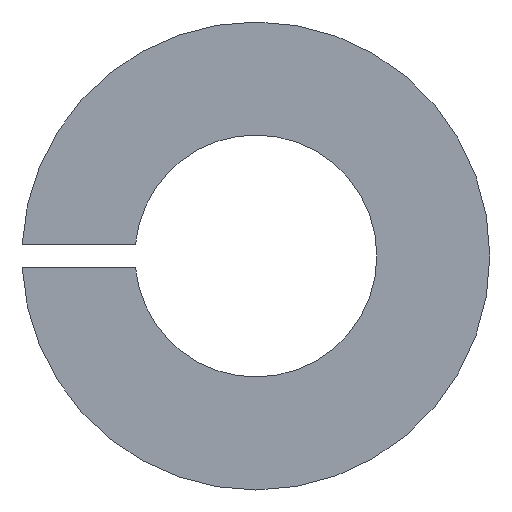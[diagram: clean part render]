
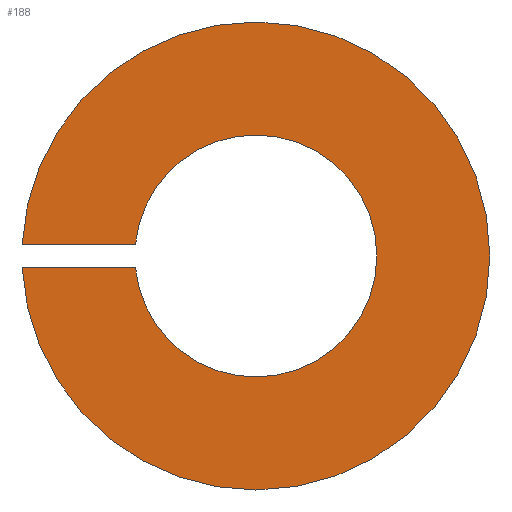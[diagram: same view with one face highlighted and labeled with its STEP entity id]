
A CAD part, left-side view. The second image highlights one B-rep face of the part: STEP entity #188.
In plain terms, the highlighted planar face has unit normal (-1, 0, 0).
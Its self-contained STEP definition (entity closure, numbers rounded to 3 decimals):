
#3 = CIRCLE ( 'NONE', #196, 5.9 ) ;
#6 = EDGE_CURVE ( 'NONE', #224, #307, #58, .T. ) ;
#14 = EDGE_CURVE ( 'NONE', #56, #29, #318, .T. ) ;
#17 = ORIENTED_EDGE ( 'NONE', *, *, #64, .F. ) ;
#18 = ORIENTED_EDGE ( 'NONE', *, *, #6, .T. ) ;
#22 = DIRECTION ( 'NONE',  ( -1., 0., 0. ) ) ;
#23 = DIRECTION ( 'NONE',  ( -1., 0., 0. ) ) ;
#27 = DIRECTION ( 'NONE',  ( 1., 0., 0. ) ) ;
#28 = CARTESIAN_POINT ( 'NONE',  ( 0., 0., 0. ) ) ;
#29 = VERTEX_POINT ( 'NONE', #130 ) ;
#40 = FACE_OUTER_BOUND ( 'NONE', #287, .T. ) ;
#42 = CARTESIAN_POINT ( 'NONE',  ( 0., 5.892, -0.3 ) ) ;
#43 = EDGE_CURVE ( 'NONE', #124, #307, #190, .T. ) ;
#56 = VERTEX_POINT ( 'NONE', #319 ) ;
#58 = LINE ( 'NONE', #337, #146 ) ;
#59 = VECTOR ( 'NONE', #241, 1000. ) ;
#61 = VERTEX_POINT ( 'NONE', #138 ) ;
#64 = EDGE_CURVE ( 'NONE', #29, #124, #90, .T. ) ;
#66 = CARTESIAN_POINT ( 'NONE',  ( 0., 0., -5.9 ) ) ;
#67 = CARTESIAN_POINT ( 'NONE',  ( 0., 0., 0. ) ) ;
#73 = DIRECTION ( 'NONE',  ( -1., 0., 0. ) ) ;
#74 = DIRECTION ( 'NONE',  ( 0., 0., 1. ) ) ;
#76 = ORIENTED_EDGE ( 'NONE', *, *, #14, .F. ) ;
#77 = ORIENTED_EDGE ( 'NONE', *, *, #281, .T. ) ;
#78 = CIRCLE ( 'NONE', #147, 5.9 ) ;
#79 = EDGE_CURVE ( 'NONE', #251, #61, #78, .T. ) ;
#81 = ORIENTED_EDGE ( 'NONE', *, *, #164, .T. ) ;
#89 = AXIS2_PLACEMENT_3D ( 'NONE', #67, #262, #125 ) ;
#90 = CIRCLE ( 'NONE', #192, 3.05 ) ;
#99 = CARTESIAN_POINT ( 'NONE',  ( 0., 0., 0. ) ) ;
#102 = CARTESIAN_POINT ( 'NONE',  ( 0., 0., 0. ) ) ;
#104 = DIRECTION ( 'NONE',  ( 0., 0., -1. ) ) ;
#106 = CARTESIAN_POINT ( 'NONE',  ( 0., 5.9, -0.3 ) ) ;
#124 = VERTEX_POINT ( 'NONE', #324 ) ;
#125 = DIRECTION ( 'NONE',  ( 0., 0., 1. ) ) ;
#130 = CARTESIAN_POINT ( 'NONE',  ( 0., 0., -3.05 ) ) ;
#131 = AXIS2_PLACEMENT_3D ( 'NONE', #219, #22, #217 ) ;
#136 = DIRECTION ( 'NONE',  ( -1., 0., 0. ) ) ;
#138 = CARTESIAN_POINT ( 'NONE',  ( 0., 0., 5.9 ) ) ;
#139 = DIRECTION ( 'NONE',  ( 0., 0., 1. ) ) ;
#144 = DIRECTION ( 'NONE',  ( 0., 0., 1. ) ) ;
#146 = VECTOR ( 'NONE', #161, 1000. ) ;
#147 = AXIS2_PLACEMENT_3D ( 'NONE', #322, #136, #298 ) ;
#156 = CARTESIAN_POINT ( 'NONE',  ( 0., 5.892, 0.3 ) ) ;
#160 = ORIENTED_EDGE ( 'NONE', *, *, #79, .T. ) ;
#161 = DIRECTION ( 'NONE',  ( 0., -1., 0. ) ) ;
#164 = EDGE_CURVE ( 'NONE', #61, #224, #200, .T. ) ;
#167 = CARTESIAN_POINT ( 'NONE',  ( 0., 5.9, 0. ) ) ;
#172 = AXIS2_PLACEMENT_3D ( 'NONE', #102, #23, #74 ) ;
#188 = ADVANCED_FACE ( 'NONE', ( #40 ), #268, .F. ) ;
#190 = CIRCLE ( 'NONE', #172, 3.05 ) ;
#192 = AXIS2_PLACEMENT_3D ( 'NONE', #28, #302, #144 ) ;
#196 = AXIS2_PLACEMENT_3D ( 'NONE', #99, #73, #139 ) ;
#199 = EDGE_CURVE ( 'NONE', #327, #251, #3, .T. ) ;
#200 = CIRCLE ( 'NONE', #131, 5.9 ) ;
#212 = AXIS2_PLACEMENT_3D ( 'NONE', #167, #27, #104 ) ;
#217 = DIRECTION ( 'NONE',  ( 0., 0., 1. ) ) ;
#219 = CARTESIAN_POINT ( 'NONE',  ( 0., 0., 0. ) ) ;
#224 = VERTEX_POINT ( 'NONE', #156 ) ;
#229 = LINE ( 'NONE', #106, #59 ) ;
#241 = DIRECTION ( 'NONE',  ( 0., 1., 0. ) ) ;
#249 = ORIENTED_EDGE ( 'NONE', *, *, #43, .F. ) ;
#251 = VERTEX_POINT ( 'NONE', #66 ) ;
#262 = DIRECTION ( 'NONE',  ( -1., 0., 0. ) ) ;
#268 = PLANE ( 'NONE',  #212 ) ;
#277 = ORIENTED_EDGE ( 'NONE', *, *, #199, .T. ) ;
#281 = EDGE_CURVE ( 'NONE', #56, #327, #229, .T. ) ;
#287 = EDGE_LOOP ( 'NONE', ( #18, #249, #17, #76, #77, #277, #160, #81 ) ) ;
#298 = DIRECTION ( 'NONE',  ( 0., 0., 1. ) ) ;
#300 = CARTESIAN_POINT ( 'NONE',  ( 0., 3.035, 0.3 ) ) ;
#302 = DIRECTION ( 'NONE',  ( -1., 0., 0. ) ) ;
#307 = VERTEX_POINT ( 'NONE', #300 ) ;
#318 = CIRCLE ( 'NONE', #89, 3.05 ) ;
#319 = CARTESIAN_POINT ( 'NONE',  ( 0., 3.035, -0.3 ) ) ;
#322 = CARTESIAN_POINT ( 'NONE',  ( 0., 0., 0. ) ) ;
#324 = CARTESIAN_POINT ( 'NONE',  ( 0., 0., 3.05 ) ) ;
#327 = VERTEX_POINT ( 'NONE', #42 ) ;
#337 = CARTESIAN_POINT ( 'NONE',  ( 0., 5.9, 0.3 ) ) ;
